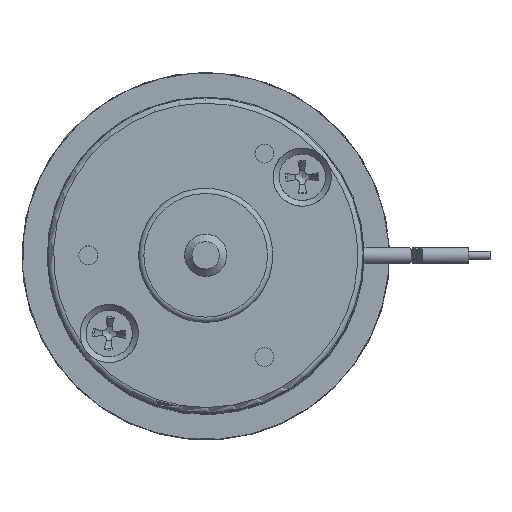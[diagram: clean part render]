
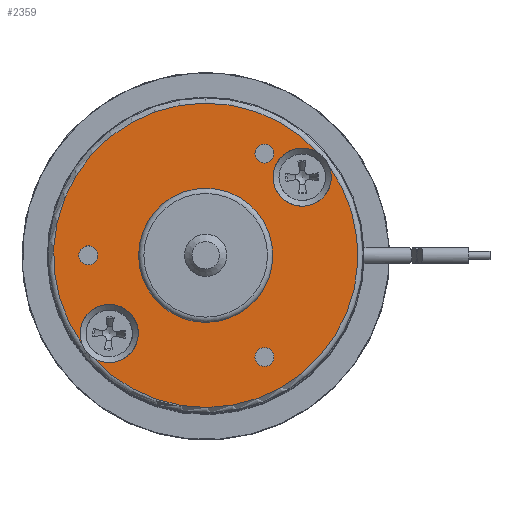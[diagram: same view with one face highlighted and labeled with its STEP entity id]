
A CAD part, top view. The second image highlights one B-rep face of the part: STEP entity #2359.
In plain terms, the highlighted planar face has unit normal (0, 0, 1).
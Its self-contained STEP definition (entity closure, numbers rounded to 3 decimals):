
#2272=CARTESIAN_POINT('',(0.,0.,73.6));
#2273=DIRECTION('',(0.0,0.0,-1.0));
#2274=DIRECTION('',(0.0,1.0,0.0));
#2275=AXIS2_PLACEMENT_3D('',#2272,#2273,#2274);
#2276=PLANE('',#2275);
#2277=CARTESIAN_POINT('',(11.685,8.416,73.6));
#2278=VERTEX_POINT('',#2277);
#2279=CARTESIAN_POINT('',(10.661,9.68,73.6));
#2280=VERTEX_POINT('',#2279);
#2281=CARTESIAN_POINT('',(9.131,7.395,73.6));
#2282=DIRECTION('',(0.0,0.0,-1.0));
#2283=DIRECTION('',(0.0,-1.0,0.0));
#2284=AXIS2_PLACEMENT_3D('',#2281,#2282,#2283);
#2285=CIRCLE('',#2284,2.75);
#2286=EDGE_CURVE('',#2278,#2280,#2285,.T.);
#2287=ORIENTED_EDGE('',*,*,#2286,.T.);
#2288=CARTESIAN_POINT('',(-11.685,-8.416,73.6));
#2289=VERTEX_POINT('',#2288);
#2290=CARTESIAN_POINT('',(0.,0.,73.6));
#2291=DIRECTION('',(0.0,0.0,-1.0));
#2292=DIRECTION('',(0.0,-1.0,0.0));
#2293=AXIS2_PLACEMENT_3D('',#2290,#2291,#2292);
#2294=CIRCLE('',#2293,14.4);
#2295=EDGE_CURVE('',#2289,#2280,#2294,.T.);
#2296=ORIENTED_EDGE('',*,*,#2295,.F.);
#2297=CARTESIAN_POINT('',(-10.661,-9.68,73.6));
#2298=VERTEX_POINT('',#2297);
#2299=CARTESIAN_POINT('',(-9.131,-7.395,73.6));
#2300=DIRECTION('',(0.0,0.0,-1.0));
#2301=DIRECTION('',(0.0,-1.0,0.0));
#2302=AXIS2_PLACEMENT_3D('',#2299,#2300,#2301);
#2303=CIRCLE('',#2302,2.75);
#2304=EDGE_CURVE('',#2289,#2298,#2303,.T.);
#2305=ORIENTED_EDGE('',*,*,#2304,.T.);
#2306=CARTESIAN_POINT('',(0.,0.,73.6));
#2307=DIRECTION('',(0.0,0.0,-1.0));
#2308=DIRECTION('',(0.0,-1.0,0.0));
#2309=AXIS2_PLACEMENT_3D('',#2306,#2307,#2308);
#2310=CIRCLE('',#2309,14.4);
#2311=EDGE_CURVE('',#2278,#2298,#2310,.T.);
#2312=ORIENTED_EDGE('',*,*,#2311,.F.);
#2313=EDGE_LOOP('',(#2287,#2296,#2305,#2312));
#2314=FACE_OUTER_BOUND('',#2313,.T.);
#2315=CARTESIAN_POINT('',(5.556,-10.524,73.6));
#2316=VERTEX_POINT('',#2315);
#2317=CARTESIAN_POINT('',(5.556,-9.624,73.6));
#2318=DIRECTION('',(0.0,0.0,-1.0));
#2319=DIRECTION('',(0.0,-1.0,0.0));
#2320=AXIS2_PLACEMENT_3D('',#2317,#2318,#2319);
#2321=CIRCLE('',#2320,0.9);
#2322=EDGE_CURVE('',#2316,#2316,#2321,.T.);
#2323=ORIENTED_EDGE('',*,*,#2322,.T.);
#2324=EDGE_LOOP('',(#2323));
#2325=FACE_BOUND('',#2324,.T.);
#2326=CARTESIAN_POINT('',(5.556,8.724,73.6));
#2327=VERTEX_POINT('',#2326);
#2328=CARTESIAN_POINT('',(5.556,9.624,73.6));
#2329=DIRECTION('',(0.0,0.0,-1.0));
#2330=DIRECTION('',(0.0,-1.0,0.0));
#2331=AXIS2_PLACEMENT_3D('',#2328,#2329,#2330);
#2332=CIRCLE('',#2331,0.9);
#2333=EDGE_CURVE('',#2327,#2327,#2332,.T.);
#2334=ORIENTED_EDGE('',*,*,#2333,.T.);
#2335=EDGE_LOOP('',(#2334));
#2336=FACE_BOUND('',#2335,.T.);
#2337=CARTESIAN_POINT('',(-11.113,-0.9,73.6));
#2338=VERTEX_POINT('',#2337);
#2339=CARTESIAN_POINT('',(-11.113,0.,73.6));
#2340=DIRECTION('',(0.0,0.0,-1.0));
#2341=DIRECTION('',(0.0,-1.0,0.0));
#2342=AXIS2_PLACEMENT_3D('',#2339,#2340,#2341);
#2343=CIRCLE('',#2342,0.9);
#2344=EDGE_CURVE('',#2338,#2338,#2343,.T.);
#2345=ORIENTED_EDGE('',*,*,#2344,.T.);
#2346=EDGE_LOOP('',(#2345));
#2347=FACE_BOUND('',#2346,.T.);
#2348=CARTESIAN_POINT('',(0.,-6.35,73.6));
#2349=VERTEX_POINT('',#2348);
#2350=CARTESIAN_POINT('',(0.,0.,73.6));
#2351=DIRECTION('',(0.0,0.0,-1.0));
#2352=DIRECTION('',(0.0,1.0,0.0));
#2353=AXIS2_PLACEMENT_3D('',#2350,#2351,#2352);
#2354=CIRCLE('',#2353,6.35);
#2355=EDGE_CURVE('',#2349,#2349,#2354,.T.);
#2356=ORIENTED_EDGE('',*,*,#2355,.T.);
#2357=EDGE_LOOP('',(#2356));
#2358=FACE_BOUND('',#2357,.T.);
#2359=ADVANCED_FACE('',(#2314,#2325,#2336,#2347,#2358),#2276,.F.);
